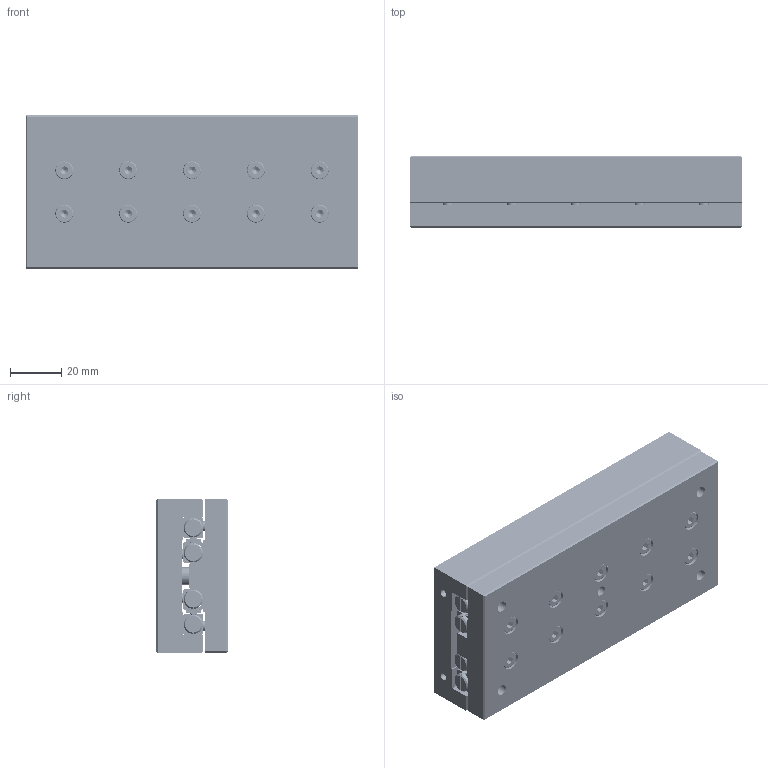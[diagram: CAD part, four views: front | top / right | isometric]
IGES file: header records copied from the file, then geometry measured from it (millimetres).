
Start section: SolidWorks IGES file using analytic representation for surfaces
Global section: file name: C:\Documents and Settings\IanO.IANOHOME\My Documents\Wix and Auto CAD Work\CAD Models\Parametric Models\Auto Models\L1020\L1020_IGES\L1020.060-130.igs; native system: SolidWorks 2009; preprocessor: SolidWorks 2009; author: IanO; date: 110922.162646; units: millimetre
Bounding box: 130 x 28 x 60 mm (x, y, z)
Surface area: 80433.1 mm2 (no closed solid volume)
Topology: 0 solids, 0 shells, 1564 faces, 21036 edges, 20986 vertices
Faces by surface type: bspline 986, revolution 578
